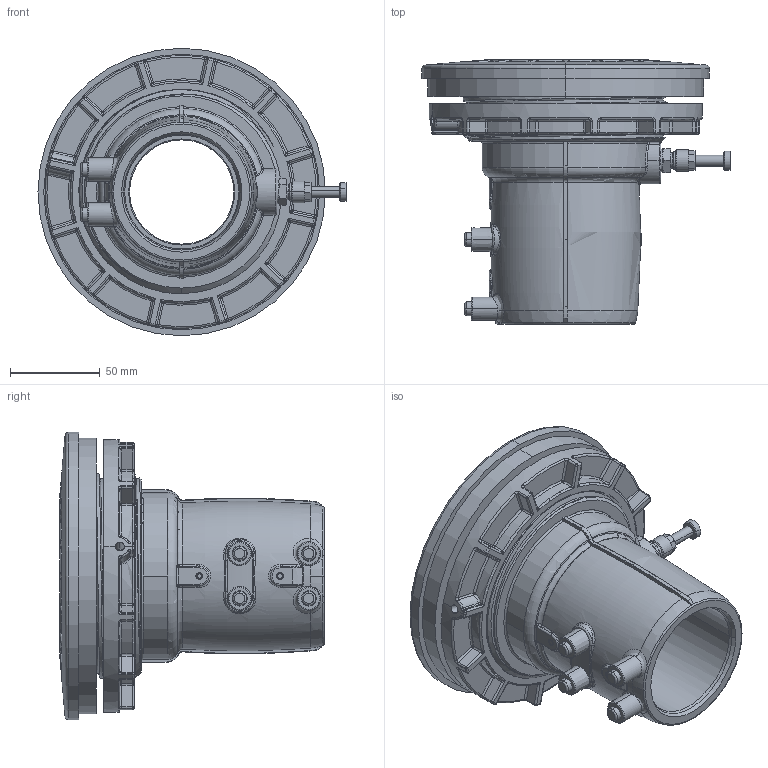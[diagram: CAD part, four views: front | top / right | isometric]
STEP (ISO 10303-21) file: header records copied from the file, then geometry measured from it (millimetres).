
FILE_DESCRIPTION (( 'STEP AP203' ), '1' );
FILE_NAME ('KP_TM75-63SC2B-L.STEP', '2012-01-18T12:59:08', ( '' ), ( '' ), 'SwSTEP 2.0', 'SolidWorks 2012', '' );
FILE_SCHEMA (( 'CONFIG_CONTROL_DESIGN' ));
Length unit declared in the file: millimetre
Products named in the file (1): KP_TM75-63SC2B-L
Bounding box: 171.5 x 147.06 x 160 mm (x, y, z)
Volume: 690362.3 mm3; surface area: 189768 mm2
Topology: 6 solids, 16 shells, 1691 faces, 4080 edges, 2348 vertices
Faces by surface type: bspline 524, cylinder 370, plane 333, torus 211, cone 157, sphere 96
Entity records: 71806 total; most frequent: CARTESIAN_POINT 37288, ORIENTED_EDGE 7876, DIRECTION 6305, EDGE_CURVE 3938, AXIS2_PLACEMENT_3D 2638, VERTEX_POINT 2346, EDGE_LOOP 1770, ADVANCED_FACE 1691
